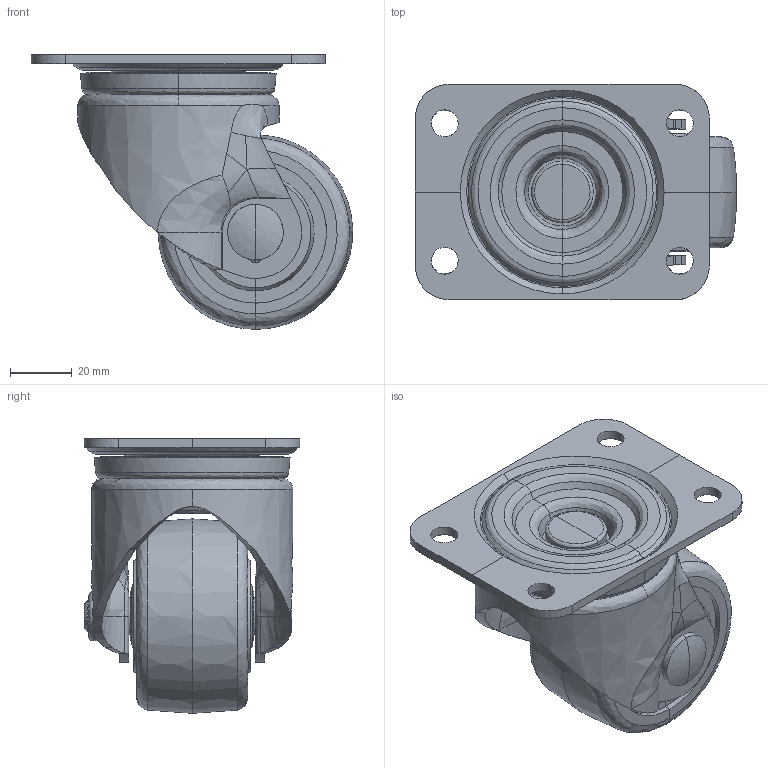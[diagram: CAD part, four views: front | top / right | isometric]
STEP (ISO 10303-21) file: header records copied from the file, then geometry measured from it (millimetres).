
FILE_DESCRIPTION (( 'STEP AP214' ), '1' );
FILE_NAME ('FP63BOWJ.STEP', '2023-10-15T12:02:36', ( 'sakai' ), ( 'Hewlett-Packard' ), 'SwSTEP 2.0', 'SolidWorks 2010', '' );
FILE_SCHEMA (( 'AUTOMOTIVE_DESIGN' ));
Length unit declared in the file: millimetre
Products named in the file (11): FP63BOWJ-10; FP63BOWJ-11; FP63BOWJ-12; FP63BOWJ-13; FP63BOWJ-14; FP63BOWJ-15; FP63BOWJ-16; FP63BOWJ-17; FP63BOWJ-18; FP63BOWJ-19; FP63BOWJ
Assembly tree (10 placements, depth 2):
  FP63BOWJ
    FP63BOWJ-11
    FP63BOWJ-12
    FP63BOWJ-14
    FP63BOWJ-15
    FP63BOWJ-19
    FP63BOWJ-16
    FP63BOWJ-10
    FP63BOWJ-17
    FP63BOWJ-18
    FP63BOWJ-13
Bounding box: 104.07 x 69.9 x 89 mm (x, y, z)
Volume: 166206.4 mm3; surface area: 80154.1 mm2
Topology: 10 solids, 10 shells, 418 faces, 968 edges, 547 vertices
Faces by surface type: bspline 373, plane 45
Entity records: 74626 total; most frequent: CARTESIAN_POINT 67171, ORIENTED_EDGE 1920, EDGE_CURVE 960, B_SPLINE_CURVE_WITH_KNOTS 842, VERTEX_POINT 547, EDGE_LOOP 431, ADVANCED_FACE 418, FACE_OUTER_BOUND 418
